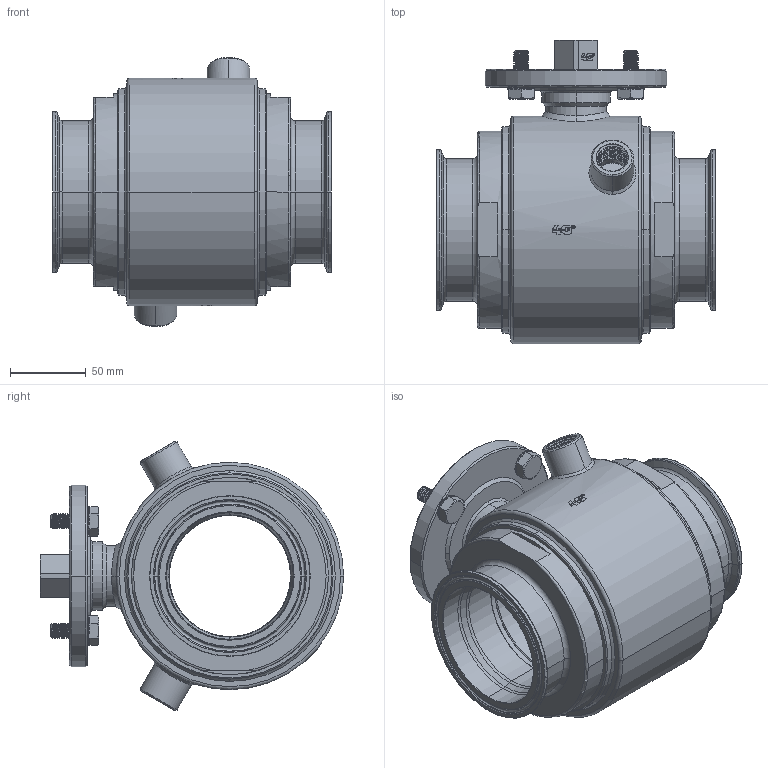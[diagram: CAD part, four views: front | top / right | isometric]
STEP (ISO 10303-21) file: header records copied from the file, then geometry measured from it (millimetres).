
FILE_DESCRIPTION((''),'2;1');
FILE_NAME('103030C6511F_SW0001','2026-03-13T08:23:11',('tecnico2'),('CDM Tecnoconsulting'),'CREO PARAMETRIC BY PTC INC, 2024063','CREO PARAMETRIC BY PTC INC, 2024063','');
FILE_SCHEMA(('CONFIG_CONTROL_DESIGN','SHAPE_APPEARANCE_LAYERS_GROUPS'));
Products named in the file (1): 103030C6511F_SW0001
Bounding box: 184 x 200 x 177.54 mm (x, y, z)
Volume: 1485045.3 mm3; surface area: 357808.3 mm2
Topology: 1 solids, 1 shells, 1982 faces, 5452 edges, 3547 vertices
Faces by surface type: plane 842, cylinder 496, extrusion 223, cone 207, bspline 136, torus 74, sphere 4
Entity records: 167141 total; most frequent: CARTESIAN_POINT 102876, ORIENTED_EDGE 10888, DIRECTION 8091, PRESENTATION_STYLE_ASSIGNMENT 5543, STYLED_ITEM 5445, CURVE_STYLE 5444, EDGE_CURVE 5444, VERTEX_POINT 3547
